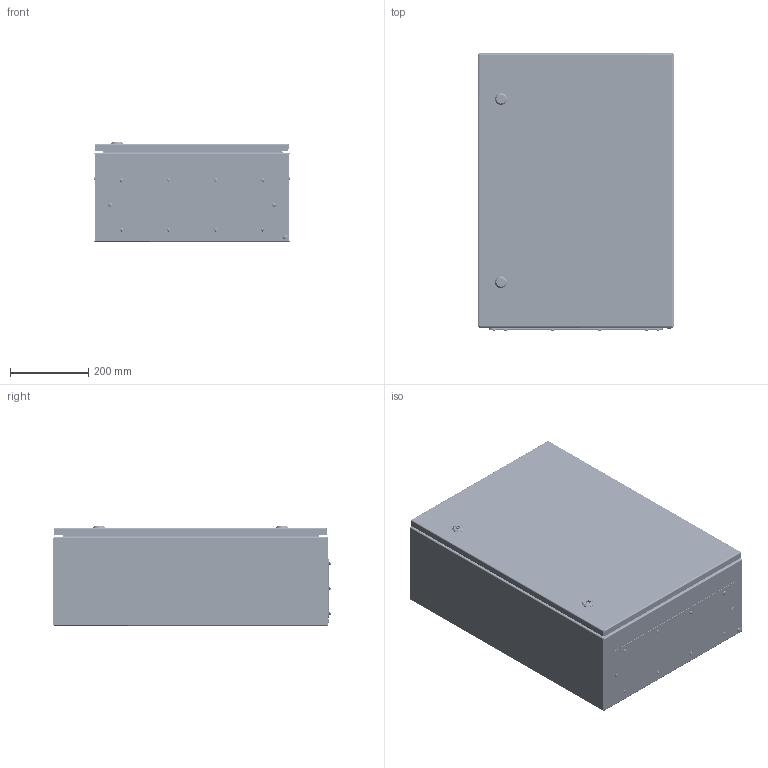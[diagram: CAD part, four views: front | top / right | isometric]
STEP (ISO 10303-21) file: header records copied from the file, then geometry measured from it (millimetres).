
FILE_DESCRIPTION (( 'STEP AP214' ), '1' );
FILE_NAME ('T-CCS 70.50.25.STEP', '2024-08-20T09:38:05', ( '' ), ( '' ), 'SwSTEP 2.0', 'SolidWorks 2019', '' );
FILE_SCHEMA (( 'AUTOMOTIVE_DESIGN' ));
Length unit declared in the file: millimetre
Products named in the file (1): T-CCS 70.50.25
Bounding box: 500 x 706.62 x 254.15 mm (x, y, z)
Volume: 3449671.4 mm3; surface area: 3818786.2 mm2
Topology: 85 solids, 85 shells, 4118 faces, 10496 edges, 6648 vertices
Faces by surface type: plane 2064, cylinder 1355, cone 360, bspline 168, torus 124, sphere 47
Entity records: 221062 total; most frequent: CARTESIAN_POINT 77726, ORIENTED_EDGE 20866, DIRECTION 19544, EDGE_CURVE 10433, AXIS2_PLACEMENT_3D 6751, VERTEX_POINT 6646, VECTOR 6042, LINE 6042
